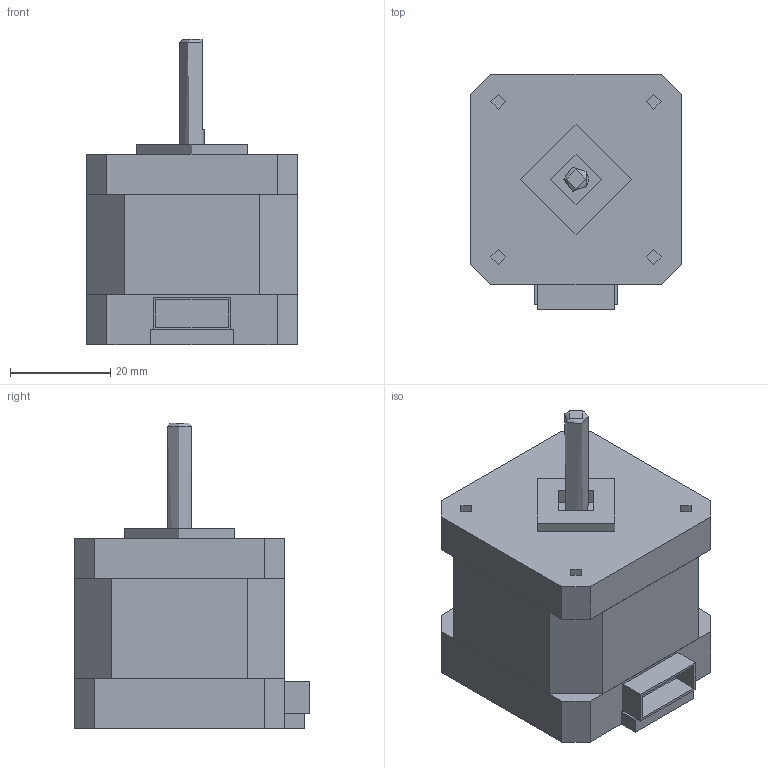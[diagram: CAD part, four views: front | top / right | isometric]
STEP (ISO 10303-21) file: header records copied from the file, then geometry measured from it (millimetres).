
FILE_DESCRIPTION(('FreeCAD Model'),'2;1');
FILE_NAME('/home/alexandr/tmp/grabcad/NEMA17/NEMA17.step', '2021-03-04T15:27:56',('Author'),(''), 'Open CASCADE STEP processor 7.4','FreeCAD','Unknown');
FILE_SCHEMA(('AUTOMOTIVE_DESIGN { 1 0 10303 214 1 1 1 1 }'));
Length unit declared in the file: millimetre
Products named in the file (11): Part; Body; Body001; Body002; Body003; Fastnr_1; Fastnr_2; Fastnr_3; Fastnr_4; Body004; Shaft
Assembly tree (10 placements, depth 2):
  Part
    Body
    Body001
    Body002
    Body003
    Fastnr_1
    Fastnr_2
    Fastnr_3
    Fastnr_4
    Body004
    Shaft
Bounding box: 42 x 47 x 61 mm (x, y, z)
Volume: 65218.8 mm3; surface area: 18546.1 mm2
Topology: 5 solids, 5 shells, 69 faces, 159 edges, 102 vertices
Faces by surface type: plane 56, cylinder 12, cone 1
Full cylindrical faces by diameter (mm): 3 x4, 5 x1, 6 x4, 9 x1, 10 x1, 22 x1
Entity records: 2187 total; most frequent: DIRECTION 348, CARTESIAN_POINT 341, ORIENTED_EDGE 308, EDGE_CURVE 154, LINE 130, VECTOR 130, AXIS2_PLACEMENT_3D 109, VERTEX_POINT 102
